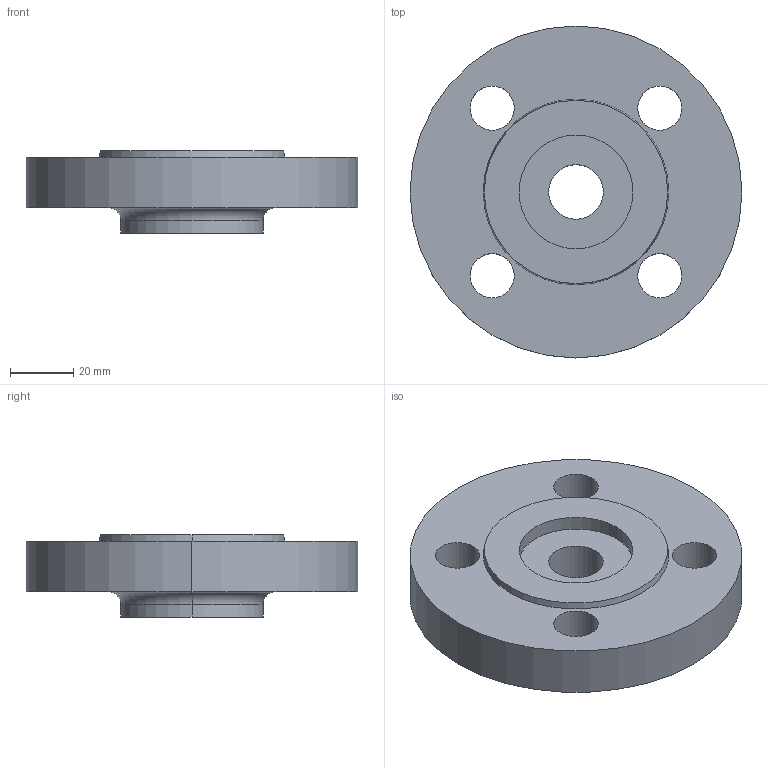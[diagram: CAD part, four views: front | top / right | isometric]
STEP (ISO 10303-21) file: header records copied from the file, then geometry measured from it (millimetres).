
FILE_DESCRIPTION (( 'STEP AP214' ), '1' );
FILE_NAME ('PN40 DN20 Type 13 - Type G Face.STEP', '2018-12-30T04:08:25', ( '' ), ( '' ), 'SwSTEP 2.0', 'SolidWorks 2019', '' );
FILE_SCHEMA (( 'AUTOMOTIVE_DESIGN' ));
Length unit declared in the file: millimetre
Products named in the file (1): PN40 DN20 Type 13 - Type G Face
Bounding box: 105 x 105 x 26 mm (x, y, z)
Volume: 137638.3 mm3; surface area: 26589.5 mm2
Topology: 1 solids, 1 shells, 25 faces, 58 edges, 38 vertices
Faces by surface type: cylinder 16, plane 5, torus 2, cone 2
Entity records: 790 total; most frequent: DIRECTION 150, CARTESIAN_POINT 122, ORIENTED_EDGE 116, AXIS2_PLACEMENT_3D 66, EDGE_CURVE 58, CIRCLE 40, EDGE_LOOP 38, VERTEX_POINT 38
